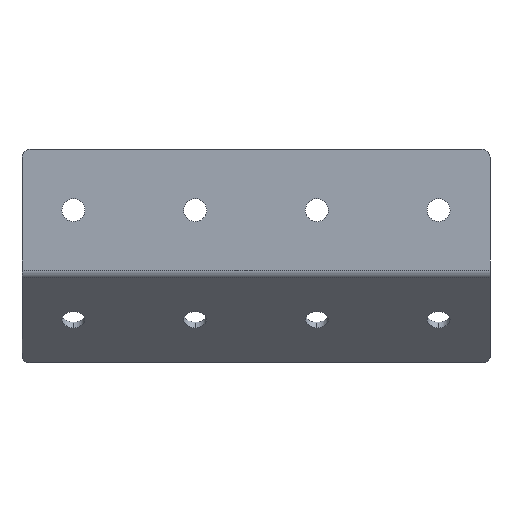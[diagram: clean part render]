
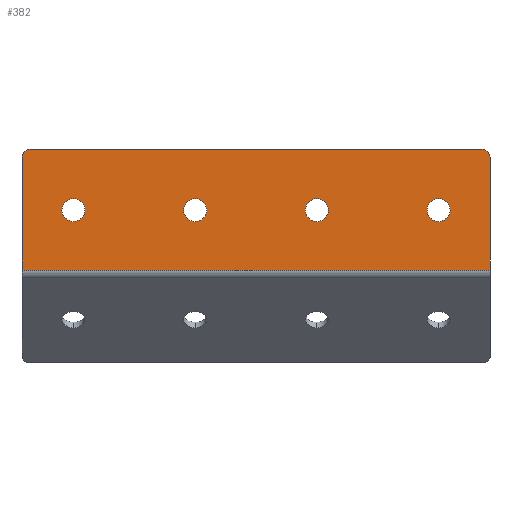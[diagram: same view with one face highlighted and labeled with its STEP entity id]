
A CAD part, front view. The second image highlights one B-rep face of the part: STEP entity #382.
In plain terms, the highlighted planar face has unit normal (0, -1, 0).
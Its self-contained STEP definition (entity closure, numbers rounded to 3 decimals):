
#28 = ORIENTED_EDGE ( 'NONE', *, *, #336, .F. ) ;
#37 = ORIENTED_EDGE ( 'NONE', *, *, #1019, .T. ) ;
#66 = EDGE_LOOP ( 'NONE', ( #28, #110 ) ) ;
#94 = EDGE_CURVE ( 'NONE', #1068, #908, #96, .T. ) ;
#96 = CIRCLE ( 'NONE', #248, 3. ) ;
#103 = CARTESIAN_POINT ( 'NONE',  ( -83.5, -3., 45. ) ) ;
#110 = ORIENTED_EDGE ( 'NONE', *, *, #1106, .F. ) ;
#114 = VECTOR ( 'NONE', #578, 1000. ) ;
#120 = AXIS2_PLACEMENT_3D ( 'NONE', #1001, #230, #914 ) ;
#145 = CARTESIAN_POINT ( 'NONE',  ( 67.5, -3., 22.5 ) ) ;
#151 = EDGE_CURVE ( 'NONE', #345, #1062, #764, .T. ) ;
#169 = AXIS2_PLACEMENT_3D ( 'NONE', #534, #449, #610 ) ;
#186 = EDGE_LOOP ( 'NONE', ( #391, #366 ) ) ;
#199 = DIRECTION ( 'NONE',  ( 0., -1., 0. ) ) ;
#225 = CARTESIAN_POINT ( 'NONE',  ( -67.5, -3., 18.25 ) ) ;
#227 = CIRCLE ( 'NONE', #947, 4.25 ) ;
#230 = DIRECTION ( 'NONE',  ( 0., -1., 0. ) ) ;
#232 = FACE_BOUND ( 'NONE', #655, .T. ) ;
#236 = ORIENTED_EDGE ( 'NONE', *, *, #858, .T. ) ;
#248 = AXIS2_PLACEMENT_3D ( 'NONE', #1102, #323, #732 ) ;
#254 = EDGE_CURVE ( 'NONE', #477, #573, #461, .T. ) ;
#257 = ORIENTED_EDGE ( 'NONE', *, *, #261, .F. ) ;
#261 = EDGE_CURVE ( 'NONE', #799, #1078, #372, .T. ) ;
#270 = CARTESIAN_POINT ( 'NONE',  ( -86.5, -3., 0.331 ) ) ;
#272 = ORIENTED_EDGE ( 'NONE', *, *, #151, .F. ) ;
#274 = CARTESIAN_POINT ( 'NONE',  ( -67.5, -3., 26.75 ) ) ;
#293 = EDGE_CURVE ( 'NONE', #991, #801, #644, .T. ) ;
#295 = ORIENTED_EDGE ( 'NONE', *, *, #1022, .F. ) ;
#301 = VERTEX_POINT ( 'NONE', #648 ) ;
#304 = CARTESIAN_POINT ( 'NONE',  ( 86.5, -3., 42. ) ) ;
#308 = FACE_BOUND ( 'NONE', #810, .T. ) ;
#315 = CARTESIAN_POINT ( 'NONE',  ( -67.5, -3., 22.5 ) ) ;
#320 = DIRECTION ( 'NONE',  ( 0., 1., 0. ) ) ;
#322 = CIRCLE ( 'NONE', #169, 4.25 ) ;
#323 = DIRECTION ( 'NONE',  ( 0., -1., 0. ) ) ;
#336 = EDGE_CURVE ( 'NONE', #626, #589, #844, .T. ) ;
#345 = VERTEX_POINT ( 'NONE', #1114 ) ;
#354 = CARTESIAN_POINT ( 'NONE',  ( 83.5, -3., 45. ) ) ;
#366 = ORIENTED_EDGE ( 'NONE', *, *, #774, .F. ) ;
#372 = CIRCLE ( 'NONE', #120, 4.25 ) ;
#376 = CIRCLE ( 'NONE', #898, 4.25 ) ;
#382 = ADVANCED_FACE ( 'NONE', ( #308, #728, #1003, #232, #915 ), #826, .F. ) ;
#391 = ORIENTED_EDGE ( 'NONE', *, *, #254, .F. ) ;
#394 = CARTESIAN_POINT ( 'NONE',  ( -22.5, -3., 22.5 ) ) ;
#396 = VECTOR ( 'NONE', #996, 1000. ) ;
#407 = DIRECTION ( 'NONE',  ( 0., 0., 1. ) ) ;
#408 = CARTESIAN_POINT ( 'NONE',  ( 86.5, -3., 0.331 ) ) ;
#410 = CARTESIAN_POINT ( 'NONE',  ( 86.5, -3., 0.331 ) ) ;
#449 = DIRECTION ( 'NONE',  ( 0., -1., 0. ) ) ;
#453 = EDGE_LOOP ( 'NONE', ( #295, #1116, #37, #1047, #236, #566 ) ) ;
#461 = CIRCLE ( 'NONE', #1080, 4.25 ) ;
#475 = CARTESIAN_POINT ( 'NONE',  ( -22.5, -3., 18.25 ) ) ;
#477 = VERTEX_POINT ( 'NONE', #498 ) ;
#490 = ORIENTED_EDGE ( 'NONE', *, *, #1018, .F. ) ;
#498 = CARTESIAN_POINT ( 'NONE',  ( 22.5, -3., 26.75 ) ) ;
#520 = DIRECTION ( 'NONE',  ( 0., -1., 0. ) ) ;
#534 = CARTESIAN_POINT ( 'NONE',  ( 22.5, -3., 22.5 ) ) ;
#566 = ORIENTED_EDGE ( 'NONE', *, *, #293, .F. ) ;
#573 = VERTEX_POINT ( 'NONE', #646 ) ;
#574 = DIRECTION ( 'NONE',  ( 0., -1., 0. ) ) ;
#578 = DIRECTION ( 'NONE',  ( 0., 0., -1. ) ) ;
#583 = DIRECTION ( 'NONE',  ( 0., 0., 1. ) ) ;
#584 = VECTOR ( 'NONE', #1013, 1000. ) ;
#589 = VERTEX_POINT ( 'NONE', #919 ) ;
#594 = AXIS2_PLACEMENT_3D ( 'NONE', #738, #199, #886 ) ;
#602 = DIRECTION ( 'NONE',  ( 0., 0., 1. ) ) ;
#610 = DIRECTION ( 'NONE',  ( 0., 0., 1. ) ) ;
#624 = VECTOR ( 'NONE', #685, 1000. ) ;
#626 = VERTEX_POINT ( 'NONE', #1067 ) ;
#627 = AXIS2_PLACEMENT_3D ( 'NONE', #1097, #320, #659 ) ;
#638 = DIRECTION ( 'NONE',  ( 0., -1., 0. ) ) ;
#644 = LINE ( 'NONE', #410, #396 ) ;
#645 = CARTESIAN_POINT ( 'NONE',  ( 67.5, -3., 22.5 ) ) ;
#646 = CARTESIAN_POINT ( 'NONE',  ( 22.5, -3., 18.25 ) ) ;
#648 = CARTESIAN_POINT ( 'NONE',  ( -86.5, -3., 42. ) ) ;
#649 = DIRECTION ( 'NONE',  ( 0., -1., 0. ) ) ;
#652 = CARTESIAN_POINT ( 'NONE',  ( 86.5, -3., 0. ) ) ;
#655 = EDGE_LOOP ( 'NONE', ( #257, #859 ) ) ;
#659 = DIRECTION ( 'NONE',  ( 0., 0., 1. ) ) ;
#685 = DIRECTION ( 'NONE',  ( 0., 0., -1. ) ) ;
#695 = CARTESIAN_POINT ( 'NONE',  ( -83.5, -3., 42. ) ) ;
#699 = CARTESIAN_POINT ( 'NONE',  ( -86.5, -3., 0. ) ) ;
#715 = AXIS2_PLACEMENT_3D ( 'NONE', #145, #574, #583 ) ;
#721 = CARTESIAN_POINT ( 'NONE',  ( 22.5, -3., 22.5 ) ) ;
#728 = FACE_BOUND ( 'NONE', #186, .T. ) ;
#732 = DIRECTION ( 'NONE',  ( 0., 0., 1. ) ) ;
#737 = DIRECTION ( 'NONE',  ( 0., -1., 0. ) ) ;
#738 = CARTESIAN_POINT ( 'NONE',  ( -22.5, -3., 22.5 ) ) ;
#741 = VERTEX_POINT ( 'NONE', #103 ) ;
#764 = CIRCLE ( 'NONE', #1096, 4.25 ) ;
#774 = EDGE_CURVE ( 'NONE', #573, #477, #322, .T. ) ;
#789 = LINE ( 'NONE', #699, #624 ) ;
#799 = VERTEX_POINT ( 'NONE', #274 ) ;
#801 = VERTEX_POINT ( 'NONE', #270 ) ;
#810 = EDGE_LOOP ( 'NONE', ( #272, #490 ) ) ;
#811 = DIRECTION ( 'NONE',  ( 0., 0., 1. ) ) ;
#823 = LINE ( 'NONE', #652, #114 ) ;
#826 = PLANE ( 'NONE',  #627 ) ;
#844 = CIRCLE ( 'NONE', #715, 4.25 ) ;
#845 = EDGE_CURVE ( 'NONE', #1078, #799, #376, .T. ) ;
#858 = EDGE_CURVE ( 'NONE', #301, #801, #789, .T. ) ;
#859 = ORIENTED_EDGE ( 'NONE', *, *, #845, .F. ) ;
#886 = DIRECTION ( 'NONE',  ( 0., 0., 1. ) ) ;
#898 = AXIS2_PLACEMENT_3D ( 'NONE', #315, #649, #602 ) ;
#908 = VERTEX_POINT ( 'NONE', #354 ) ;
#912 = DIRECTION ( 'NONE',  ( 0., -1., 0. ) ) ;
#914 = DIRECTION ( 'NONE',  ( 0., 0., 1. ) ) ;
#915 = FACE_OUTER_BOUND ( 'NONE', #453, .T. ) ;
#918 = DIRECTION ( 'NONE',  ( 0., 0., 1. ) ) ;
#919 = CARTESIAN_POINT ( 'NONE',  ( 67.5, -3., 18.25 ) ) ;
#932 = EDGE_CURVE ( 'NONE', #741, #301, #1043, .T. ) ;
#943 = DIRECTION ( 'NONE',  ( 0., 0., 1. ) ) ;
#947 = AXIS2_PLACEMENT_3D ( 'NONE', #645, #912, #918 ) ;
#963 = CIRCLE ( 'NONE', #594, 4.25 ) ;
#991 = VERTEX_POINT ( 'NONE', #408 ) ;
#996 = DIRECTION ( 'NONE',  ( -1., 0., 0. ) ) ;
#997 = LINE ( 'NONE', #1081, #584 ) ;
#1001 = CARTESIAN_POINT ( 'NONE',  ( -67.5, -3., 22.5 ) ) ;
#1003 = FACE_BOUND ( 'NONE', #66, .T. ) ;
#1013 = DIRECTION ( 'NONE',  ( -1., 0., 0. ) ) ;
#1018 = EDGE_CURVE ( 'NONE', #1062, #345, #963, .T. ) ;
#1019 = EDGE_CURVE ( 'NONE', #908, #741, #997, .T. ) ;
#1022 = EDGE_CURVE ( 'NONE', #1068, #991, #823, .T. ) ;
#1043 = CIRCLE ( 'NONE', #1066, 3. ) ;
#1047 = ORIENTED_EDGE ( 'NONE', *, *, #932, .T. ) ;
#1062 = VERTEX_POINT ( 'NONE', #475 ) ;
#1066 = AXIS2_PLACEMENT_3D ( 'NONE', #695, #520, #943 ) ;
#1067 = CARTESIAN_POINT ( 'NONE',  ( 67.5, -3., 26.75 ) ) ;
#1068 = VERTEX_POINT ( 'NONE', #304 ) ;
#1078 = VERTEX_POINT ( 'NONE', #225 ) ;
#1080 = AXIS2_PLACEMENT_3D ( 'NONE', #721, #638, #811 ) ;
#1081 = CARTESIAN_POINT ( 'NONE',  ( 86.5, -3., 45. ) ) ;
#1096 = AXIS2_PLACEMENT_3D ( 'NONE', #394, #737, #407 ) ;
#1097 = CARTESIAN_POINT ( 'NONE',  ( 86.5, -3., 0. ) ) ;
#1102 = CARTESIAN_POINT ( 'NONE',  ( 83.5, -3., 42. ) ) ;
#1106 = EDGE_CURVE ( 'NONE', #589, #626, #227, .T. ) ;
#1114 = CARTESIAN_POINT ( 'NONE',  ( -22.5, -3., 26.75 ) ) ;
#1116 = ORIENTED_EDGE ( 'NONE', *, *, #94, .T. ) ;
